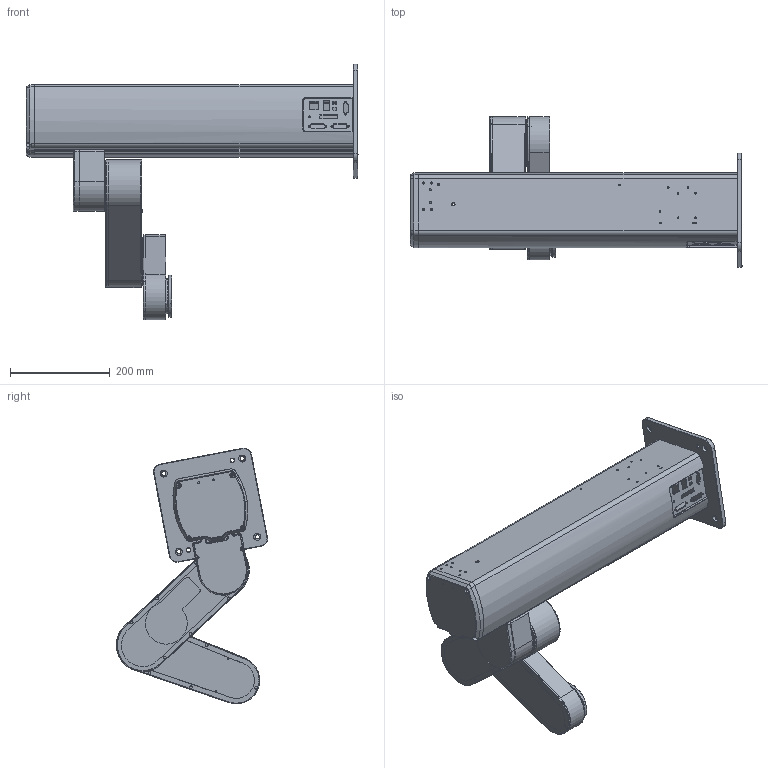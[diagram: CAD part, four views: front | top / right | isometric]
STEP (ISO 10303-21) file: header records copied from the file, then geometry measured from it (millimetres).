
FILE_DESCRIPTION(('CATIA V5 STEP Exchange'),'2;1');
FILE_NAME('E:\LYJ工作文件\研发\Z-Arm 系列\Z-Arm 2442\9.7.4 20套改版\3142 简图\Z-Arm 3142 V1.1.0stp.stp','2021-05-17T12:27:17+00:00',('none'),('none'),'CATIA Version 5 Release 20 GA (IN-10)','CATIA V5 STEP AP203','none');
FILE_SCHEMA(('CONFIG_CONTROL_DESIGN'));
Length unit declared in the file: millimetre
Products named in the file (7): 产品1; 产品5; LIANJIEBAN; 101-012-10-05; 101-012-10-03; 101-012-10-02; 101-012-10-01-02
Assembly tree (28 placements, depth 4):
  产品1
    产品5
      #66
      #6658
      #8311
      LIANJIEBAN
        #12212
        #15258
      #15824
      #17707  x3
      #18662
    101-012-10-05
      101-012-10-03
        #22546
        #24446
        #25488
        #26311
        #26994
      101-012-10-02
        #30377
        #32297
        #33655
        #34830
        #36269
    101-012-10-01-02
      #36739
      #39520
Bounding box: 666 x 303.2 x 513.04 mm (x, y, z)
Volume: 7115049.1 mm3; surface area: 1320410.5 mm2
Topology: 22 solids, 22 shells, 1476 faces, 3872 edges, 2470 vertices
Faces by surface type: cylinder 715, plane 479, cone 216, torus 36, extrusion 13, sphere 12, bspline 5
Entity records: 42263 total; most frequent: CARTESIAN_POINT 8613, ORIENTED_EDGE 7344, DIRECTION 5622, EDGE_CURVE 3672, AXIS2_PLACEMENT_3D 2686, VERTEX_POINT 2378, VECTOR 1873, LINE 1860
